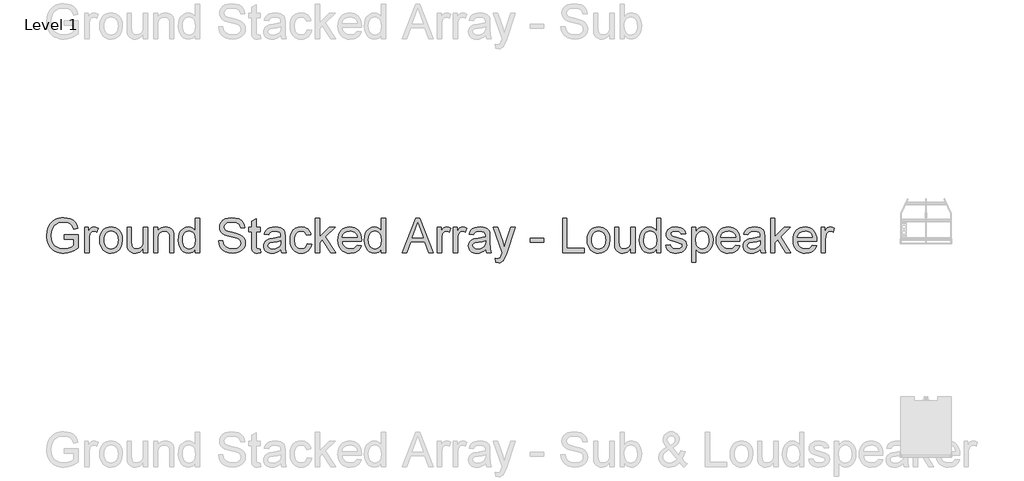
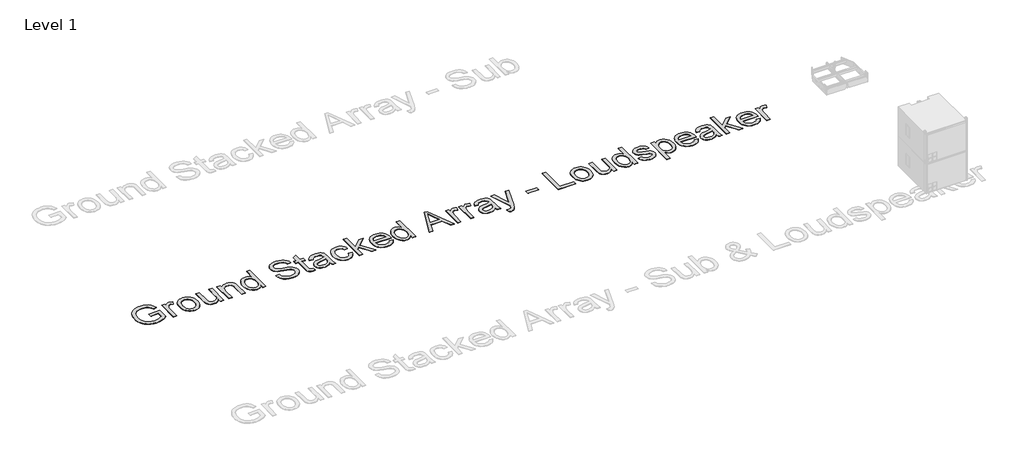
# One storey, part 16 of 31: 1 proxy.
"""IFC4 building model written with IfcOpenShell, lengths in millimetres."""

from ifc_helpers import new_model, si_unit, origin, origin_with_axes, place, context, project, spatial, polyline, outline, extrude, element, save

model = new_model("IFC4")

# Units and contexts
model_context = context("Model", 3, world=origin())
ifc_project = project(units=[si_unit("LENGTHUNIT", "METRE", prefix="MILLI")], contexts=[model_context])

# Site, building, storey
site = spatial("IfcSite", under=ifc_project)
building = spatial("IfcBuilding", under=site)
storey = spatial("IfcBuildingStorey", under=building, Name="Level 1", Elevation=0.0)

# Proxy
placement = place(None, origin())
element("IfcBuildingElementProxy", 1, Name="400mm Arial", ObjectType="400mm Arial", at=placement, inside=storey, context=model_context, shape_type="SweptSolid", body=[
    extrude(outline(polyline([(1908.6992468, -6940.554912), (1908.6992468, -6890.3267569), (2071.9407508, -6890.3267569), (2071.9407508, -7040.5207128), (2032.270809, -7068.1118625), (1991.3500684, -7087.9039138), (1949.2766309, -7099.8232904), (1906.1485983, -7103.796416), (1877.2974529, -7102.2175891), (1849.8013394, -7097.4811084), (1823.660258, -7089.5869739), (1798.8742085, -7078.5351857), (1776.2433345, -7064.4912905), (1756.5677791, -7047.6208353), (1739.8475424, -7027.9238202), (1726.0826244, -7005.400245), (1715.3312731, -6980.7705454), (1707.6517365, -6954.755157), (1703.0440145, -6927.3540797), (1701.5081071, -6898.5673136), (1707.627211, -6841.9748), (1715.2760908, -6815.1592683), (1725.9845226, -6789.3308865), (1739.5624339, -6765.6239576), (1755.8197524, -6745.1727844), (1774.7564781, -6727.9773668), (1796.372611, -6714.0377048), (1820.1991015, -6703.2648937), (1845.7669002, -6695.5700287), (1873.076007, -6690.9531096), (1902.1264218, -6689.4141366), (1943.5008836, -6692.982592), (1980.706016, -6703.687958), (2012.0372993, -6720.7576826), (2035.7902134, -6743.4192135), (2053.3627101, -6772.763934), (2066.1527408, -6809.8832273), (2019.8486603, -6822.9307754), (2009.5111762, -6796.4555345), (1996.9418747, -6776.4795422), (1980.3136086, -6761.4209058), (1957.7992305, -6749.6977329), (1930.9561075, -6742.156152), (1901.3416069, -6739.6422917), (1866.6748602, -6742.3523557), (1837.0358342, -6750.4825478), (1812.5348933, -6763.0150611), (1793.2824022, -6778.9320888), (1778.5058087, -6797.4120277), (1767.4325607, -6817.6332747), (1755.6603368, -6855.5496456), (1751.7362622, -6896.5071744), (1756.4574145, -6944.5403003), (1770.6208713, -6984.0630893), (1793.797437, -7014.7934986), (1825.5579159, -7036.4494854), (1862.7262602, -7049.288567), (1902.1264218, -7053.5682609), (1936.9157959, -7050.3431621), (1970.8467785, -7040.6678656), (2000.3141264, -7027.3382747), (2021.7125957, -7013.1502924), (2021.7125957, -6940.554912), (1908.6992468, -6940.554912)])), origin_with_axes(), (0.0, 0.0, 1.0), 5.0),
    extrude(outline(polyline([(2147.2829834, -7097.5178966), (2147.2829834, -6802.4274855), (2191.2326191, -6802.4274855), (2191.2326191, -6846.0828156), (2207.4684778, -6820.7725344), (2222.4290123, -6805.8610508), (2237.4385977, -6798.5769873), (2253.8216092, -6796.1489662), (2278.8375849, -6800.0239898), (2304.245968, -6811.6490609), (2287.4705491, -6856.6778171), (2269.8122133, -6848.9522952), (2252.1538775, -6846.3771212), (2237.1565549, -6848.8541933), (2223.7533875, -6856.2854096), (2212.9253941, -6868.1066844), (2205.6535933, -6883.7539319), (2199.5467522, -6911.8110654), (2197.5111385, -6942.4188474), (2197.5111385, -7097.5178966), (2147.2829834, -7097.5178966)])), origin_with_axes(), (0.0, 0.0, 1.0), 5.0),
    extrude(outline(polyline([(2323.0815262, -6949.9726911), (2325.7977216, -6911.7558831), (2333.9463078, -6878.8243132), (2347.5272848, -6851.1779813), (2366.5406526, -6828.8168873), (2385.682779, -6814.5246718), (2406.8114683, -6804.3159465), (2429.9267203, -6798.1907112), (2455.0285351, -6796.1489662), (2482.7392464, -6798.6352353), (2507.795076, -6806.0940428), (2530.1960238, -6818.5253885), (2549.9420899, -6835.9292726), (2566.058387, -6857.7170837), (2577.5700277, -6883.3002108), (2584.4770122, -6912.6786538), (2586.7793403, -6945.8524127), (2582.7081129, -6996.5956026), (2570.4944307, -7035.2232121), (2550.4939129, -7064.1509996), (2523.0621788, -7085.7947237), (2490.4800967, -7099.2959929), (2455.0285351, -7103.796416), (2426.9131536, -7101.3193439), (2401.6243322, -7093.8881276), (2379.1620707, -7081.5027671), (2359.5263692, -7064.1632624), (2343.5817504, -7042.1639191), (2332.1927369, -7015.7990427), (2325.3593289, -6985.0686334), (2323.0815262, -6949.9726911)]), holes=[polyline([(2373.3096813, -6949.8745892), (2374.7628152, -6974.2375743), (2379.1222168, -6995.3325411), (2386.3878862, -7013.1594894), (2396.5598234, -7027.7184194), (2408.9329211, -7039.0277251), (2422.8020724, -7047.1058005), (2438.167277, -7051.9526458), (2455.0285351, -7053.5682609), (2471.8039541, -7051.9434488), (2487.1078451, -7047.0690123), (2500.9402081, -7038.9449516), (2513.3010432, -7027.5712666), (2523.4729803, -7012.8682495), (2530.7386497, -6994.7561926), (2535.0980514, -6973.2350959), (2536.5511853, -6948.3049594), (2535.0888543, -6924.7145264), (2530.7018615, -6904.1713827), (2523.3902069, -6886.6755281), (2513.1538904, -6872.2269628), (2500.7470701, -6860.9176571), (2486.9239041, -6852.8395816), (2471.6843925, -6847.9927363), (2455.0285351, -6846.3771212), (2438.167277, -6847.986605), (2422.8020724, -6852.8150562), (2408.9329211, -6860.8624748), (2396.5598234, -6872.1288609), (2386.3878862, -6886.6448713), (2379.1222168, -6904.4411628), (2374.7628152, -6925.5177354), (2373.3096813, -6949.8745892)])]), origin_with_axes(), (0.0, 0.0, 1.0), 5.0),
    extrude(outline(polyline([(2831.6415963, -7097.5178966), (2831.6415963, -7046.7992322), (2813.4682258, -7071.7355001), (2792.3027483, -7089.54712), (2768.145164, -7100.234092), (2740.9954727, -7103.796416), (2716.53132, -7101.2948184), (2693.7594245, -7093.7900257), (2674.6540863, -7082.5083112), (2661.1896052, -7068.6759482), (2652.1274454, -7051.8760037), (2646.2290708, -7031.6915449), (2643.2860148, -6984.995057), (2643.2860148, -6802.4274855), (2693.5141699, -6802.4274855), (2693.5141699, -6961.3525075), (2696.5553277, -7012.5616812), (2703.8761794, -7029.6436685), (2716.4209554, -7042.6299029), (2733.3557899, -7050.8336714), (2753.8468171, -7053.5682609), (2775.5150666, -7050.7723578), (2795.7853645, -7042.3846483), (2812.4994698, -7029.1776846), (2823.4991415, -7011.9240191), (2829.6059826, -6988.2937322), (2831.6415963, -6955.9569049), (2831.6415963, -6802.4274855), (2881.8697514, -6802.4274855), (2881.8697514, -7097.5178966), (2831.6415963, -7097.5178966)])), origin_with_axes(), (0.0, 0.0, 1.0), 5.0),
    extrude(outline(polyline([(2950.9334646, -7097.5178966), (2950.9334646, -6802.4274855), (3001.1616197, -6802.4274855), (3001.1616197, -6843.630269), (3018.611489, -6822.857199), (3039.5685, -6808.0192919), (3064.0326527, -6799.1165476), (3092.003947, -6796.1489662), (3116.7624053, -6798.5401991), (3139.436199, -6805.713898), (3158.3453335, -6816.7748834), (3171.8098145, -6830.8279756), (3180.9455507, -6847.8363865), (3186.8684509, -6867.7633279), (3189.5172012, -6916.3237513), (3189.5172012, -7097.5178966), (3139.2890462, -7097.5178966), (3139.2890462, -6923.09278), (3137.8420436, -6897.1203111), (3133.5010361, -6878.6526349), (3125.4934713, -6865.4211459), (3113.0467972, -6855.1572382), (3097.0929813, -6848.5721505), (3078.5639915, -6846.3771212), (3049.1456946, -6851.30674), (3024.0684053, -6866.0955962), (3014.0466866, -6878.168257), (3006.8883161, -6894.6677645), (3002.5932938, -6915.5941186), (3001.1616197, -6940.9473195), (3001.1616197, -7097.5178966), (2950.9334646, -7097.5178966)])), origin_with_axes(), (0.0, 0.0, 1.0), 5.0),
    extrude(outline(polyline([(3440.6579766, -7097.5178966), (3440.6579766, -7050.1346956), (3425.6299971, -7073.6116983), (3407.4259697, -7090.3809859), (3386.0458944, -7100.4425585), (3361.4897712, -7103.796416), (3329.0180538, -7098.9403737), (3299.2931886, -7084.3722466), (3274.1300601, -7061.1098418), (3255.3435529, -7030.170966), (3243.6449055, -6992.806418), (3239.7453563, -6950.2669967), (3243.3383371, -6908.2548728), (3254.1172796, -6870.3139764), (3272.069921, -6838.6025484), (3297.1839985, -6815.2788299), (3327.5587886, -6800.9314321), (3361.2935675, -6796.1489662), (3385.8680848, -6799.5702687), (3407.597648, -6809.8341764), (3426.0162732, -6825.567263), (3440.6579766, -6845.3961026), (3440.6579766, -6695.692656), (3490.8861317, -6695.692656), (3490.8861317, -7097.5178966), (3440.6579766, -7097.5178966)]), holes=[polyline([(3289.9735114, -6950.0707929), (3291.3898571, -6974.4276467), (3295.6388941, -6995.5042193), (3302.7206225, -7013.3005109), (3312.6350423, -7027.8165213), (3337.3321869, -7047.130326), (3351.2074695, -7051.9587772), (3366.1005589, -7053.5682609), (3381.0641591, -7052.0323536), (3394.8566682, -7047.4246316), (3418.9284134, -7028.9937436), (3428.4350973, -7015.0847385), (3435.2255858, -6997.9322405), (3440.6579766, -6953.8967657), (3435.1274839, -6905.7532753), (3428.2143681, -6887.2181541), (3418.536006, -6872.3741156), (3406.8342928, -6861.0004305), (3393.8511241, -6852.8763698), (3379.5864997, -6848.0019334), (3364.0404197, -6846.3771212), (3348.8530247, -6847.937554), (3334.9777421, -6852.6188524), (3322.414572, -6860.4210164), (3311.1635143, -6871.344046), (3301.892888, -6885.6270644), (3295.2710121, -6903.5091951), (3289.9735114, -6950.0707929)])]), origin_with_axes(), (0.0, 0.0, 1.0), 5.0),
    extrude(outline(polyline([(3710.6343101, -6959.3904702), (3760.8624652, -6959.3904702), (3766.6259498, -6987.2636627), (3777.049273, -7009.6676762), (3793.3096572, -7027.4486393), (3816.5843247, -7041.4526805), (3845.0338657, -7050.5393658), (3876.8188701, -7053.5682609), (3904.8024272, -7051.2751298), (3929.3033681, -7044.3957365), (3949.1567331, -7033.5064294), (3963.1975626, -7019.1835571), (3971.5484838, -7002.7392319), (3974.3321243, -6985.4855663), (3972.2474596, -6968.6733592), (3965.9934657, -6954.1420204), (3953.2892742, -6941.7443971), (3931.8540166, -6931.3333367), (3858.7190759, -6912.154422), (3810.7104756, -6899.4624931), (3779.992329, -6887.383701), (3754.988616, -6870.4856547), (3737.2689666, -6850.0068903), (3726.7107533, -6826.3888662), (3723.1913489, -6800.0730408), (3727.5446192, -6770.6547439), (3740.60443, -6743.2230098), (3762.0274249, -6719.9728677), (3791.4702472, -6703.0993468), (3826.8114442, -6692.8354392), (3865.929563, -6689.4141366), (3908.3095689, -6692.9948547), (3945.392074, -6703.737009), (3975.8527032, -6721.4198702), (3998.3670813, -6745.8227092), (4012.6163772, -6775.4249471), (4018.28176, -6808.7060049), (3968.0536049, -6808.7060049), (3958.8320295, -6778.7358851), (3950.4688455, -6766.8778221), (3939.6040639, -6757.1044237), (3909.5603677, -6744.0078247), (3867.8916003, -6739.6422917), (3825.2418144, -6743.9587738), (3808.9385106, -6749.3543764), (3795.982933, -6756.90822), (3779.0603612, -6775.9645074), (3773.419504, -6798.6015128), (3777.417155, -6817.9030548), (3789.410108, -6833.427675), (3817.7615471, -6847.309089), (3871.4232675, -6861.4848085), (3926.8017705, -6874.9492895), (3960.3035575, -6886.6969879), (3988.9370395, -6904.9194094), (4008.9130318, -6927.409262), (4020.6484675, -6953.9212912), (4024.5602794, -6984.2102421), (4020.0598563, -7015.1736434), (4006.5585871, -7044.2976346), (3984.6082947, -7069.3626612), (3954.7608021, -7088.1491685), (3918.8677821, -7099.8846041), (3878.7809074, -7103.796416), (3829.5705592, -7099.5780358), (3789.0667515, -7086.9228951), (3756.8035005, -7065.7819432), (3732.3148224, -7036.1061289), (3716.5939985, -6999.9555915), (3710.6343101, -6959.3904702)])), origin_with_axes(), (0.0, 0.0, 1.0), 5.0),
    extrude(outline(polyline([(4200.3588221, -7055.6284001), (4206.6373415, -7098.9894246), (4169.0643271, -7103.796416), (4144.9557936, -7101.7117514), (4126.9786268, -7095.4577574), (4114.2744352, -7085.8192492), (4105.9848276, -7073.5810415), (4101.4230909, -7052.5627168), (4099.902512, -7016.5838577), (4099.902512, -6852.6556406), (4062.2313957, -6852.6556406), (4062.2313957, -6802.4274855), (4099.902512, -6802.4274855), (4099.902512, -6730.715022), (4150.130667, -6701.1863605), (4150.130667, -6802.4274855), (4200.3588221, -6802.4274855), (4200.3588221, -6852.6556406), (4150.130667, -6852.6556406), (4150.130667, -7015.1123297), (4152.7794174, -7041.0112221), (4161.3633306, -7050.1837466), (4178.4821061, -7053.5682609), (4200.3588221, -7055.6284001)])), origin_with_axes(), (0.0, 0.0, 1.0), 5.0),
    extrude(outline(polyline([(4438.9425587, -7059.8467803), (4414.9443899, -7080.4236466), (4390.2349826, -7093.8881276), (4364.250251, -7101.3193439), (4336.4261094, -7103.796416), (4314.0619498, -7102.3064939), (4294.4507737, -7097.8367277), (4277.5925813, -7090.3871173), (4263.4873725, -7079.9576627), (4252.3497451, -7067.2105516), (4244.3942969, -7052.8079715), (4239.6210281, -7036.7499224), (4238.0299384, -7019.0364043), (4240.4334341, -6998.2142834), (4247.6439212, -6979.3051488), (4258.7662202, -6963.118341), (4272.9051516, -6950.4632004), (4289.521155, -6940.8982685), (4308.0746703, -6933.982087), (4351.5337967, -6926.4282434), (4402.8901232, -6918.4819923), (4438.6482531, -6909.1623151), (4438.9425587, -6897.9787024), (4435.484468, -6875.5624262), (4425.1101957, -6860.8961973), (4401.9091045, -6850.0068903), (4369.5845399, -6846.3771212), (4339.663471, -6848.7928797), (4318.7677736, -6856.040155), (4304.5184777, -6869.4433223), (4294.5366129, -6890.3267569), (4244.3084578, -6884.0482375), (4253.0272611, -6856.5797152), (4266.038021, -6834.9973049), (4284.5547481, -6818.491666), (4309.7914529, -6806.2534583), (4340.6567523, -6798.6750892), (4376.059263, -6796.1489662), (4410.0147712, -6798.3807836), (4436.9314705, -6805.0762359), (4457.2262939, -6815.1439398), (4471.3161743, -6827.4925121), (4480.660377, -6842.7596149), (4486.7181672, -6861.5829104), (4489.1707138, -6905.5325461), (4489.1707138, -6968.0234343), (4491.7213623, -7055.2850436), (4501.7277526, -7097.5178966), (4451.4995975, -7097.5178966), (4443.4552445, -7080.0557646), (4438.9425587, -7059.8467803)]), holes=[polyline([(4438.9425587, -6959.3904702), (4405.195517, -6967.7536542), (4357.9104179, -6974.792463), (4314.6965462, -6982.9349178), (4303.4516199, -6988.5021987), (4295.1252241, -6996.1786697), (4289.9748761, -7005.3757195), (4288.2580935, -7015.5047372), (4291.9982271, -7030.4407462), (4303.218628, -7042.6789539), (4321.6740414, -7050.8459342), (4347.1192127, -7053.5682609), (4374.0972257, -7050.5638913), (4397.935979, -7041.5507824), (4417.2620465, -7028.2702424), (4430.702002, -7012.4635793), (4436.6616904, -6996.1786697), (4438.6482531, -6973.6152406), (4438.9425587, -6959.3904702)])]), origin_with_axes(), (0.0, 0.0, 1.0), 5.0),
    extrude(outline(polyline([(4746.5900086, -6990.7830671), (4796.8181636, -6997.0615865), (4791.355116, -7020.762384), (4782.8141223, -7041.7347234), (4771.1951827, -7059.9786047), (4756.498297, -7075.4940278), (4739.3427332, -7087.8763227), (4720.3477596, -7096.720819), (4699.5133759, -7102.0275167), (4676.8395823, -7103.796416), (4648.6690185, -7101.3285409), (4623.4108538, -7093.9249158), (4601.0650883, -7081.5855405), (4581.6317219, -7064.3104152), (4565.9017009, -7042.4245021), (4554.6659717, -7016.2527639), (4547.9245341, -6985.7952004), (4545.6773883, -6951.0518116), (4549.5156237, -6906.3541492), (4561.0303302, -6867.6161751), (4580.4054486, -6836.3339428), (4607.82492, -6814.0035057), (4640.6277312, -6800.612601), (4676.1528692, -6796.1489662), (4698.4373211, -6797.6818078), (4718.5941887, -6802.2803327), (4736.6234722, -6809.944541), (4752.5251714, -6820.6744325), (4766.0295063, -6834.2247527), (4776.8666968, -6850.3502468), (4785.0367427, -6869.0509149), (4790.5396442, -6890.3267569), (4740.3114892, -6896.6052763), (4731.2002784, -6874.6917721), (4717.0122961, -6858.9832109), (4698.5323573, -6849.5286437), (4676.5452767, -6846.3771212), (4659.4786178, -6847.928357), (4644.085822, -6852.5820642), (4630.3668892, -6860.338243), (4618.3218196, -6871.1968932), (4608.5146987, -6885.4094009), (4601.5096124, -6903.2271522), (4597.3065606, -6924.6501471), (4595.9055433, -6949.6783855), (4601.3869851, -6996.7550181), (4608.2387872, -7014.6923311), (4617.8313102, -7028.8956418), (4629.6372566, -7039.6899127), (4643.1293288, -7047.4001061), (4658.3075268, -7052.0262222), (4675.1718506, -7053.5682609), (4701.1811076, -7049.7177627), (4722.5060006, -7038.1662681), (4738.0183581, -7018.6194714), (4746.5900086, -6990.7830671)])), origin_with_axes(), (0.0, 0.0, 1.0), 5.0),
    extrude(outline(polyline([(4840.7677993, -7097.5178966), (4840.7677993, -6695.692656), (4890.9959544, -6695.692656), (4890.9959544, -6911.6148617), (5003.6168959, -6802.4274855), (5073.0730165, -6802.4274855), (4958.9805471, -6912.9882878), (5079.3515359, -7097.5178966), (5020.6866204, -7097.5178966), (4922.9771625, -6947.9125519), (4890.9959544, -6979.0108432), (4890.9959544, -7097.5178966), (4840.7677993, -7097.5178966)])), origin_with_axes(), (0.0, 0.0, 1.0), 5.0),
    extrude(outline(polyline([(5329.9037001, -7009.6186252), (5379.1508365, -7015.8971446), (5371.6000586, -7035.6217509), (5361.4066616, -7053.0041752), (5348.5706457, -7068.0444174), (5333.0920107, -7080.7424776), (5315.1301723, -7090.8285757), (5294.844546, -7098.0329314), (5247.3019295, -7103.796416), (5216.1361931, -7101.3101468), (5188.3672338, -7093.8513394), (5163.9950516, -7081.4199936), (5143.0196466, -7064.0161096), (5126.1522571, -7042.1240652), (5114.1041217, -7016.2282384), (5106.8752405, -6986.3286292), (5104.4656135, -6952.4252377), (5106.899766, -6917.3722149), (5114.2022236, -6886.4762587), (5126.3729863, -6859.737369), (5143.412054, -6837.1555459), (5164.3322768, -6819.2151673), (5188.1465046, -6806.4006111), (5214.8547375, -6798.7118774), (5244.4569754, -6796.1489662), (5273.1057857, -6798.705746), (5299.0138752, -6806.3760856), (5322.1812439, -6819.159985), (5342.6078917, -6837.057444), (5359.2821431, -6859.5902162), (5371.1923227, -6886.280055), (5378.3384305, -6917.1269603), (5380.7204664, -6952.1309321), (5380.4261608, -6965.6689895), (5154.6937685, -6965.6689895), (5157.603102, -6985.7124269), (5163.3880464, -7003.2665294), (5172.0486017, -7018.3312971), (5183.5847679, -7030.90673), (5197.3588829, -7040.8211498), (5212.7332846, -7047.9028782), (5248.2829481, -7053.5682609), (5275.0157064, -7050.944036), (5297.5300845, -7043.0713613), (5315.8260824, -7029.4597275), (5329.9037001, -7009.6186252)]), holes=[polyline([(5154.6937685, -6915.4408345), (5330.4923113, -6915.4408345), (5323.6987571, -6888.9042799), (5310.3814289, -6869.9215689), (5296.6839559, -6859.6208731), (5281.0980221, -6852.2632332), (5263.6236273, -6847.8486492), (5244.2607716, -6846.3771212), (5210.4033653, -6851.073748), (5182.4075455, -6865.1636285), (5162.946588, -6887.1261836), (5154.6937685, -6915.4408345)])]), origin_with_axes(), (0.0, 0.0, 1.0), 5.0),
    extrude(outline(polyline([(5613.0256836, -7097.5178966), (5613.0256836, -7050.1346956), (5597.9977041, -7073.6116983), (5579.7936767, -7090.3809859), (5558.4136014, -7100.4425585), (5533.8574782, -7103.796416), (5501.3857608, -7098.9403737), (5471.6608956, -7084.3722466), (5446.4977671, -7061.1098418), (5427.7112599, -7030.170966), (5416.0126124, -6992.806418), (5412.1130633, -6950.2669967), (5415.7060441, -6908.2548728), (5426.4849866, -6870.3139764), (5444.4376279, -6838.6025484), (5469.5517055, -6815.2788299), (5499.9264955, -6800.9314321), (5533.6612745, -6796.1489662), (5558.2357918, -6799.5702687), (5579.965355, -6809.8341764), (5598.3839802, -6825.567263), (5613.0256836, -6845.3961026), (5613.0256836, -6695.692656), (5663.2538387, -6695.692656), (5663.2538387, -7097.5178966), (5613.0256836, -7097.5178966)]), holes=[polyline([(5462.3412184, -6950.0707929), (5463.7575641, -6974.4276467), (5468.0066011, -6995.5042193), (5475.0883295, -7013.3005109), (5485.0027493, -7027.8165213), (5509.6998939, -7047.130326), (5523.5751765, -7051.9587772), (5538.4682659, -7053.5682609), (5553.4318661, -7052.0323536), (5567.2243752, -7047.4246316), (5591.2961204, -7028.9937436), (5600.8028043, -7015.0847385), (5607.5932928, -6997.9322405), (5613.0256836, -6953.8967657), (5607.4951909, -6905.7532753), (5600.5820751, -6887.2181541), (5590.903713, -6872.3741156), (5579.2019998, -6861.0004305), (5566.2188311, -6852.8763698), (5551.9542067, -6848.0019334), (5536.4081267, -6846.3771212), (5521.2207317, -6847.937554), (5507.3454491, -6852.6188524), (5494.782279, -6860.4210164), (5483.5312213, -6871.344046), (5474.260595, -6885.6270644), (5467.6387191, -6903.5091951), (5462.3412184, -6950.0707929)])]), origin_with_axes(), (0.0, 0.0, 1.0), 5.0),
    extrude(outline(polyline([(5855.1410874, -7097.5178966), (6015.5376373, -6695.692656), (6058.3100506, -6695.692656), (6218.6084986, -7097.5178966), (6165.5353894, -7097.5178966), (6119.6237164, -6971.9475089), (5954.0277677, -6971.9475089), (5908.1160947, -7097.5178966), (5855.1410874, -7097.5178966)]), holes=[polyline([(5972.4709183, -6921.7193538), (6101.2786676, -6921.7193538), (6064.9809774, -6822.9307754), (6036.825742, -6745.9208111), (6011.8097664, -6814.2978113), (5972.4709183, -6921.7193538)])]), origin_with_axes(), (0.0, 0.0, 1.0), 5.0),
    extrude(outline(polyline([(6265.9916996, -7097.5178966), (6265.9916996, -6802.4274855), (6309.9413353, -6802.4274855), (6309.9413353, -6846.0828156), (6326.177194, -6820.7725344), (6341.1377284, -6805.8610508), (6356.1473139, -6798.5769873), (6372.5303254, -6796.1489662), (6397.546301, -6800.0239898), (6422.9546842, -6811.6490609), (6406.1792652, -6856.6778171), (6388.5209294, -6848.9522952), (6370.8625937, -6846.3771212), (6355.865271, -6848.8541933), (6342.4621036, -6856.2854096), (6331.6341102, -6868.1066844), (6324.3623095, -6883.7539319), (6318.2554683, -6911.8110654), (6316.2198546, -6942.4188474), (6316.2198546, -7097.5178966), (6265.9916996, -7097.5178966)])), origin_with_axes(), (0.0, 0.0, 1.0), 5.0),
    extrude(outline(polyline([(6454.3472811, -7097.5178966), (6454.3472811, -6802.4274855), (6498.2969168, -6802.4274855), (6498.2969168, -6846.0828156), (6514.5327755, -6820.7725344), (6529.49331, -6805.8610508), (6544.5028954, -6798.5769873), (6560.8859069, -6796.1489662), (6585.9018826, -6800.0239898), (6611.3102657, -6811.6490609), (6594.5348467, -6856.6778171), (6576.876511, -6848.9522952), (6559.2181752, -6846.3771212), (6544.2208525, -6848.8541933), (6530.8176852, -6856.2854096), (6519.9896918, -6868.1066844), (6512.717891, -6883.7539319), (6506.6110499, -6911.8110654), (6504.5754362, -6942.4188474), (6504.5754362, -7097.5178966), (6454.3472811, -7097.5178966)])), origin_with_axes(), (0.0, 0.0, 1.0), 5.0),
    extrude(outline(polyline([(6831.0584442, -7059.8467803), (6807.0602753, -7080.4236466), (6782.350868, -7093.8881276), (6756.3661364, -7101.3193439), (6728.5419948, -7103.796416), (6706.1778352, -7102.3064939), (6686.5666592, -7097.8367277), (6669.7084668, -7090.3871173), (6655.6032579, -7079.9576627), (6644.4656305, -7067.2105516), (6636.5101824, -7052.8079715), (6631.7369135, -7036.7499224), (6630.1458239, -7019.0364043), (6632.5493196, -6998.2142834), (6639.7598067, -6979.3051488), (6650.8821057, -6963.118341), (6665.021037, -6950.4632004), (6681.6370405, -6940.8982685), (6700.1905557, -6933.982087), (6743.6496821, -6926.4282434), (6795.0060086, -6918.4819923), (6830.7641386, -6909.1623151), (6831.0584442, -6897.9787024), (6827.6003534, -6875.5624262), (6817.2260811, -6860.8961973), (6794.02499, -6850.0068903), (6761.7004253, -6846.3771212), (6731.7793564, -6848.7928797), (6710.8836591, -6856.040155), (6696.6343631, -6869.4433223), (6686.6524983, -6890.3267569), (6636.4243432, -6884.0482375), (6645.1431465, -6856.5797152), (6658.1539064, -6834.9973049), (6676.6706335, -6818.491666), (6701.9073384, -6806.2534583), (6732.7726378, -6798.6750892), (6768.1751484, -6796.1489662), (6802.1306566, -6798.3807836), (6829.0473559, -6805.0762359), (6849.3421793, -6815.1439398), (6863.4320597, -6827.4925121), (6872.7762624, -6842.7596149), (6878.8340526, -6861.5829104), (6881.2865992, -6905.5325461), (6881.2865992, -6968.0234343), (6883.8372477, -7055.2850436), (6893.843638, -7097.5178966), (6843.6154829, -7097.5178966), (6835.57113, -7080.0557646), (6831.0584442, -7059.8467803)]), holes=[polyline([(6831.0584442, -6959.3904702), (6797.3114025, -6967.7536542), (6750.0263034, -6974.792463), (6706.8124317, -6982.9349178), (6695.5675053, -6988.5021987), (6687.2411095, -6996.1786697), (6682.0907616, -7005.3757195), (6680.3739789, -7015.5047372), (6684.1141126, -7030.4407462), (6695.3345134, -7042.6789539), (6713.7899268, -7050.8459342), (6739.2350982, -7053.5682609), (6766.2131111, -7050.5638913), (6790.0518644, -7041.5507824), (6809.3779319, -7028.2702424), (6822.8178875, -7012.4635793), (6828.7775758, -6996.1786697), (6830.7641386, -6973.6152406), (6831.0584442, -6959.3904702)])]), origin_with_axes(), (0.0, 0.0, 1.0), 5.0),
    extrude(outline(polyline([(6950.3503125, -7210.5312455), (6944.0717931, -7162.1670259), (6969.5782781, -7166.5816098), (6982.9937082, -7165.195921), (6993.4170314, -7161.0388544), (7008.0342093, -7145.5878106), (7021.7684705, -7108.6034074), (7025.6925451, -7096.4387761), (6918.9577155, -6802.4274855), (6971.834621, -6802.4274855), (7028.5374992, -6966.3557026), (7048.2559741, -7031.8877487), (7067.9744491, -6973.9095462), (7126.1488552, -6802.4274855), (7178.6333532, -6802.4274855), (7075.9207001, -7104.5812309), (7049.2369928, -7170.113277), (7035.576308, -7191.0334998), (7020.1007387, -7205.5280504), (7002.1480974, -7213.9893363), (6981.0561963, -7216.8097649), (6950.3503125, -7210.5312455)])), origin_with_axes(), (0.0, 0.0, 1.0), 5.0),
    extrude(outline(polyline([(7352.1755531, -6978.2260283), (7352.1755531, -6927.9978732), (7509.1385377, -6927.9978732), (7509.1385377, -6978.2260283), (7352.1755531, -6978.2260283)])), origin_with_axes(), (0.0, 0.0, 1.0), 5.0),
    extrude(outline(polyline([(7728.8867161, -7097.5178966), (7728.8867161, -6695.692656), (7779.1148712, -6695.692656), (7779.1148712, -7047.2897415), (7980.0274915, -7047.2897415), (7980.0274915, -7097.5178966), (7728.8867161, -7097.5178966)])), origin_with_axes(), (0.0, 0.0, 1.0), 5.0),
    extrude(outline(polyline([(8017.6986078, -6949.9726911), (8020.4148032, -6911.7558831), (8028.5633894, -6878.8243132), (8042.1443664, -6851.1779813), (8061.1577342, -6828.8168873), (8080.2998606, -6814.5246718), (8101.4285499, -6804.3159465), (8124.5438019, -6798.1907112), (8149.6456167, -6796.1489662), (8177.356328, -6798.6352353), (8202.4121576, -6806.0940428), (8224.8131054, -6818.5253885), (8244.5591715, -6835.9292726), (8260.6754686, -6857.7170837), (8272.1871093, -6883.3002108), (8279.0940938, -6912.6786538), (8281.3964219, -6945.8524127), (8277.3251945, -6996.5956026), (8265.1115123, -7035.2232121), (8245.1109945, -7064.1509996), (8217.6792604, -7085.7947237), (8185.0971783, -7099.2959929), (8149.6456167, -7103.796416), (8121.5302353, -7101.3193439), (8096.2414138, -7093.8881276), (8073.7791523, -7081.5027671), (8054.1434508, -7064.1632624), (8038.198832, -7042.1639191), (8026.8098185, -7015.7990427), (8019.9764105, -6985.0686334), (8017.6986078, -6949.9726911)]), holes=[polyline([(8067.9267629, -6949.8745892), (8069.3798968, -6974.2375743), (8073.7392984, -6995.3325411), (8081.0049678, -7013.1594894), (8091.176905, -7027.7184194), (8103.5500027, -7039.0277251), (8117.419154, -7047.1058005), (8132.7843586, -7051.9526458), (8149.6456167, -7053.5682609), (8166.4210357, -7051.9434488), (8181.7249267, -7047.0690123), (8195.5572897, -7038.9449516), (8207.9181248, -7027.5712666), (8218.0900619, -7012.8682495), (8225.3557313, -6994.7561926), (8229.715133, -6973.2350959), (8231.1682669, -6948.3049594), (8229.7059359, -6924.7145264), (8225.3189431, -6904.1713827), (8218.0072885, -6886.6755281), (8207.770972, -6872.2269628), (8195.3641517, -6860.9176571), (8181.5409857, -6852.8395816), (8166.3014741, -6847.9927363), (8149.6456167, -6846.3771212), (8132.7843586, -6847.986605), (8117.419154, -6852.8150562), (8103.5500027, -6860.8624748), (8091.176905, -6872.1288609), (8081.0049678, -6886.6448713), (8073.7392984, -6904.4411628), (8069.3798968, -6925.5177354), (8067.9267629, -6949.8745892)])]), origin_with_axes(), (0.0, 0.0, 1.0), 5.0),
    extrude(outline(polyline([(8526.2586779, -7097.5178966), (8526.2586779, -7046.7992322), (8508.0853074, -7071.7355001), (8486.9198299, -7089.54712), (8462.7622456, -7100.234092), (8435.6125543, -7103.796416), (8411.1484016, -7101.2948184), (8388.3765061, -7093.7900257), (8369.2711679, -7082.5083112), (8355.8066868, -7068.6759482), (8346.744527, -7051.8760037), (8340.8461524, -7031.6915449), (8337.9030964, -6984.995057), (8337.9030964, -6802.4274855), (8388.1312515, -6802.4274855), (8388.1312515, -6961.3525075), (8391.1724093, -7012.5616812), (8398.493261, -7029.6436685), (8411.038037, -7042.6299029), (8427.9728716, -7050.8336714), (8448.4638987, -7053.5682609), (8470.1321482, -7050.7723578), (8490.4024461, -7042.3846483), (8507.1165515, -7029.1776846), (8518.1162231, -7011.9240191), (8524.2230642, -6988.2937322), (8526.2586779, -6955.9569049), (8526.2586779, -6802.4274855), (8576.486833, -6802.4274855), (8576.486833, -7097.5178966), (8526.2586779, -7097.5178966)])), origin_with_axes(), (0.0, 0.0, 1.0), 5.0),
    extrude(outline(polyline([(8827.6276084, -7097.5178966), (8827.6276084, -7050.1346956), (8812.5996289, -7073.6116983), (8794.3956015, -7090.3809859), (8773.0155262, -7100.4425585), (8748.459403, -7103.796416), (8715.9876856, -7098.9403737), (8686.2628204, -7084.3722466), (8661.0996919, -7061.1098418), (8642.3131847, -7030.170966), (8630.6145372, -6992.806418), (8626.7149881, -6950.2669967), (8630.3079689, -6908.2548728), (8641.0869114, -6870.3139764), (8659.0395527, -6838.6025484), (8684.1536303, -6815.2788299), (8714.5284203, -6800.9314321), (8748.2631993, -6796.1489662), (8772.8377166, -6799.5702687), (8794.5672797, -6809.8341764), (8812.985905, -6825.567263), (8827.6276084, -6845.3961026), (8827.6276084, -6695.692656), (8877.8557635, -6695.692656), (8877.8557635, -7097.5178966), (8827.6276084, -7097.5178966)]), holes=[polyline([(8676.9431432, -6950.0707929), (8678.3594888, -6974.4276467), (8682.6085259, -6995.5042193), (8689.6902543, -7013.3005109), (8699.6046741, -7027.8165213), (8724.3018187, -7047.130326), (8738.1771013, -7051.9587772), (8753.0701907, -7053.5682609), (8768.0337908, -7052.0323536), (8781.8263, -7047.4246316), (8805.8980452, -7028.9937436), (8815.4047291, -7015.0847385), (8822.1952176, -6997.9322405), (8827.6276084, -6953.8967657), (8822.0971157, -6905.7532753), (8815.1839999, -6887.2181541), (8805.5056377, -6872.3741156), (8793.8039246, -6861.0004305), (8780.8207559, -6852.8763698), (8766.5561315, -6848.0019334), (8751.0100515, -6846.3771212), (8735.8226565, -6847.937554), (8721.9473739, -6852.6188524), (8709.3842038, -6860.4210164), (8698.1331461, -6871.344046), (8688.8625198, -6885.6270644), (8682.2406439, -6903.5091951), (8676.9431432, -6950.0707929)])]), origin_with_axes(), (0.0, 0.0, 1.0), 5.0),
    extrude(outline(polyline([(8934.3624379, -7009.6186252), (8984.590593, -7003.3401058), (8992.5123186, -7024.8244144), (9007.8407351, -7040.6188147), (9030.6739443, -7050.3308994), (9061.110048, -7053.5682609), (9091.1782697, -7050.6006795), (9112.3192217, -7041.6979352), (9124.8272096, -7028.7975399), (9128.9965388, -7013.8370054), (9124.8026841, -7001.034712), (9112.2211199, -6991.2735764), (9060.5214368, -6976.9507041), (8984.8848986, -6952.3761868), (8965.7427721, -6940.0276145), (8951.8736209, -6923.6813912), (8943.4491232, -6904.3798491), (8940.6409573, -6883.1653208), (8942.8973002, -6863.7043632), (8949.6663289, -6845.7394591), (8960.3349068, -6829.981847), (8974.2898971, -6817.1427654), (9006.2220543, -6802.2803327), (9027.1054889, -6797.6818078), (9049.435926, -6796.1489662), (9082.1283726, -6798.6137755), (9110.5533881, -6806.0082036), (9133.4111228, -6817.6087492), (9149.4017268, -6832.691911), (9159.9967283, -6852.3735978), (9166.6676551, -6877.7697182), (9116.4395001, -6884.0482375), (9110.099667, -6868.2415745), (9097.554891, -6856.3344606), (9078.6825446, -6848.8664561), (9053.3600006, -6846.3771212), (9024.5180522, -6848.7560915), (9005.2900866, -6855.8930022), (8994.4743559, -6866.193698), (8990.8691124, -6878.0640238), (8996.8533262, -6892.6812017), (9015.5907825, -6903.7667125), (9058.8537051, -6914.4598158), (9132.5772569, -6938.1023654), (9152.0504772, -6949.4086054), (9166.8148079, -6964.8841746), (9176.1222224, -6984.5781241), (9179.2246939, -7008.5395047), (9175.5826622, -7033.3102257), (9164.6565669, -7056.6094187), (9146.8633411, -7076.6099365), (9122.6199176, -7091.4846319), (9093.3365108, -7100.71847), (9060.4233349, -7103.796416), (9033.3901397, -7102.3126253), (9009.7782469, -7097.8612531), (8989.5876568, -7090.4422996), (8972.8183691, -7080.0557646), (8959.1208962, -7066.7506991), (8948.14575, -7050.576154), (8939.8929306, -7031.5321294), (8934.3624379, -7009.6186252)])), origin_with_axes(), (0.0, 0.0, 1.0), 5.0),
    extrude(outline(polyline([(9235.7313684, -7210.5312455), (9235.7313684, -6802.4274855), (9285.9595234, -6802.4274855), (9285.9595234, -6851.674622), (9302.342535, -6827.3821476), (9320.6875838, -6810.0303801), (9342.0737904, -6799.6193196), (9367.5802754, -6796.1489662), (9401.5480463, -6801.0050085), (9431.2483861, -6815.5731355), (9455.4304959, -6838.9704304), (9472.843577, -6870.3139764), (9483.3650021, -6907.3229051), (9486.8721437, -6947.7163482), (9482.9112809, -6990.6727025), (9471.0286925, -7029.0918455), (9451.6045231, -7061.0240027), (9425.0189176, -7084.5193994), (9394.0555164, -7098.9771619), (9361.4979598, -7103.796416), (9338.4072332, -7100.5713172), (9317.7935788, -7090.8960207), (9300.1475057, -7076.2911055), (9285.9595234, -7058.2771505), (9285.9595234, -7210.5312455), (9235.7313684, -7210.5312455)]), holes=[polyline([(9285.9595234, -6952.3271358), (9291.3919142, -6997.3558921), (9298.1824027, -7014.7934986), (9307.6890866, -7028.8465908), (9331.7363064, -7047.3878434), (9345.4981587, -7052.0231565), (9360.4188393, -7053.5682609), (9375.5541177, -7051.9679742), (9389.567356, -7047.1671142), (9402.4585543, -7039.1656808), (9414.2277124, -7027.9636741), (9424.0348333, -7013.4016784), (9431.0399196, -6995.3202783), (9435.2429714, -6973.7194739), (9436.6439887, -6948.599265), (9431.1748097, -6903.8157634), (9424.3383359, -6886.2432668), (9414.7672727, -6871.8836062), (9390.7568411, -6852.7537425), (9377.1513387, -6847.9712765), (9362.4789784, -6846.3771212), (9347.8526034, -6848.0724441), (9334.0907511, -6853.1584127), (9309.1606146, -6873.502287), (9299.0101372, -6888.6007772), (9291.7597962, -6906.7710821), (9287.4095916, -6928.0132016), (9285.9595234, -6952.3271358)])]), origin_with_axes(), (0.0, 0.0, 1.0), 5.0),
    extrude(outline(polyline([(9749.9813467, -7009.6186252), (9799.2284831, -7015.8971446), (9791.6777052, -7035.6217509), (9781.4843082, -7053.0041752), (9768.6482923, -7068.0444174), (9753.1696573, -7080.7424776), (9735.2078189, -7090.8285757), (9714.9221925, -7098.0329314), (9667.379576, -7103.796416), (9636.2138397, -7101.3101468), (9608.4448804, -7093.8513394), (9584.0726982, -7081.4199936), (9563.0972931, -7064.0161096), (9546.2299037, -7042.1240652), (9534.1817683, -7016.2282384), (9526.9528871, -6986.3286292), (9524.54326, -6952.4252377), (9526.9774126, -6917.3722149), (9534.2798702, -6886.4762587), (9546.4506329, -6859.737369), (9563.4897006, -6837.1555459), (9584.4099234, -6819.2151673), (9608.2241512, -6806.4006111), (9634.9323841, -6798.7118774), (9664.5346219, -6796.1489662), (9693.1834323, -6798.705746), (9719.0915218, -6806.3760856), (9742.2588905, -6819.159985), (9762.6855383, -6837.057444), (9779.3597897, -6859.5902162), (9791.2699693, -6886.280055), (9798.416077, -6917.1269603), (9800.798113, -6952.1309321), (9800.5038074, -6965.6689895), (9574.7714151, -6965.6689895), (9577.6807486, -6985.7124269), (9583.4656929, -7003.2665294), (9592.1262482, -7018.3312971), (9603.6624145, -7030.90673), (9617.4365295, -7040.8211498), (9632.8109312, -7047.9028782), (9668.3605947, -7053.5682609), (9695.093353, -7050.944036), (9717.6077311, -7043.0713613), (9735.903729, -7029.4597275), (9749.9813467, -7009.6186252)]), holes=[polyline([(9574.7714151, -6915.4408345), (9750.5699579, -6915.4408345), (9743.7764037, -6888.9042799), (9730.4590755, -6869.9215689), (9716.7616025, -6859.6208731), (9701.1756687, -6852.2632332), (9683.7012739, -6847.8486492), (9664.3384182, -6846.3771212), (9630.4810119, -6851.073748), (9602.4851921, -6865.1636285), (9583.0242345, -6887.1261836), (9574.7714151, -6915.4408345)])]), origin_with_axes(), (0.0, 0.0, 1.0), 5.0),
    extrude(outline(polyline([(10039.3818496, -7059.8467803), (10015.3836807, -7080.4236466), (9990.6742734, -7093.8881276), (9964.6895418, -7101.3193439), (9936.8654002, -7103.796416), (9914.5012406, -7102.3064939), (9894.8900646, -7097.8367277), (9878.0318722, -7090.3871173), (9863.9266633, -7079.9576627), (9852.7890359, -7067.2105516), (9844.8335878, -7052.8079715), (9840.0603189, -7036.7499224), (9838.4692293, -7019.0364043), (9840.872725, -6998.2142834), (9848.0832121, -6979.3051488), (9859.2055111, -6963.118341), (9873.3444424, -6950.4632004), (9889.9604459, -6940.8982685), (9908.5139611, -6933.982087), (9951.9730875, -6926.4282434), (10003.329414, -6918.4819923), (10039.087544, -6909.1623151), (10039.3818496, -6897.9787024), (10035.9237588, -6875.5624262), (10025.5494865, -6860.8961973), (10002.3483954, -6850.0068903), (9970.0238307, -6846.3771212), (9940.1027618, -6848.7928797), (9919.2070645, -6856.040155), (9904.9577685, -6869.4433223), (9894.9759037, -6890.3267569), (9844.7477486, -6884.0482375), (9853.4665519, -6856.5797152), (9866.4773118, -6834.9973049), (9884.9940389, -6818.491666), (9910.2307438, -6806.2534583), (9941.0960432, -6798.6750892), (9976.4985539, -6796.1489662), (10010.454062, -6798.3807836), (10037.3707613, -6805.0762359), (10057.6655847, -6815.1439398), (10071.7554651, -6827.4925121), (10081.0996678, -6842.7596149), (10087.157458, -6861.5829104), (10089.6100046, -6905.5325461), (10089.6100046, -6968.0234343), (10092.1606531, -7055.2850436), (10102.1670434, -7097.5178966), (10051.9388883, -7097.5178966), (10043.8945354, -7080.0557646), (10039.3818496, -7059.8467803)]), holes=[polyline([(10039.3818496, -6959.3904702), (10005.6348079, -6967.7536542), (9958.3497088, -6974.792463), (9915.1358371, -6982.9349178), (9903.8909107, -6988.5021987), (9895.5645149, -6996.1786697), (9890.414167, -7005.3757195), (9888.6973843, -7015.5047372), (9892.437518, -7030.4407462), (9903.6579188, -7042.6789539), (9922.1133322, -7050.8459342), (9947.5585036, -7053.5682609), (9974.5365165, -7050.5638913), (9998.3752698, -7041.5507824), (10017.7013373, -7028.2702424), (10031.1412929, -7012.4635793), (10037.1009812, -6996.1786697), (10039.087544, -6973.6152406), (10039.3818496, -6959.3904702)])]), origin_with_axes(), (0.0, 0.0, 1.0), 5.0),
    extrude(outline(polyline([(10158.6737179, -7097.5178966), (10158.6737179, -6695.692656), (10208.9018729, -6695.692656), (10208.9018729, -6911.6148617), (10321.5228144, -6802.4274855), (10390.9789351, -6802.4274855), (10276.8864656, -6912.9882878), (10397.2574545, -7097.5178966), (10338.592539, -7097.5178966), (10240.8830811, -6947.9125519), (10208.9018729, -6979.0108432), (10208.9018729, -7097.5178966), (10158.6737179, -7097.5178966)])), origin_with_axes(), (0.0, 0.0, 1.0), 5.0),
    extrude(outline(polyline([(10647.8096187, -7009.6186252), (10697.0567551, -7015.8971446), (10689.5059771, -7035.6217509), (10679.3125802, -7053.0041752), (10666.4765642, -7068.0444174), (10650.9979293, -7080.7424776), (10633.0360909, -7090.8285757), (10612.7504645, -7098.0329314), (10565.207848, -7103.796416), (10534.0421116, -7101.3101468), (10506.2731524, -7093.8513394), (10481.9009702, -7081.4199936), (10460.9255651, -7064.0161096), (10444.0581756, -7042.1240652), (10432.0100403, -7016.2282384), (10424.7811591, -6986.3286292), (10422.371532, -6952.4252377), (10424.8056845, -6917.3722149), (10432.1081421, -6886.4762587), (10444.2789048, -6859.737369), (10461.3179726, -6837.1555459), (10482.2381954, -6819.2151673), (10506.0524232, -6806.4006111), (10532.760656, -6798.7118774), (10562.3628939, -6796.1489662), (10591.0117043, -6798.705746), (10616.9197938, -6806.3760856), (10640.0871624, -6819.159985), (10660.5138102, -6837.057444), (10677.1880616, -6859.5902162), (10689.0982412, -6886.280055), (10696.244349, -6917.1269603), (10698.6263849, -6952.1309321), (10698.3320793, -6965.6689895), (10472.5996871, -6965.6689895), (10475.5090205, -6985.7124269), (10481.2939649, -7003.2665294), (10489.9545202, -7018.3312971), (10501.4906864, -7030.90673), (10515.2648015, -7040.8211498), (10530.6392032, -7047.9028782), (10566.1888667, -7053.5682609), (10592.921625, -7050.944036), (10615.4360031, -7043.0713613), (10633.732001, -7029.4597275), (10647.8096187, -7009.6186252)]), holes=[polyline([(10472.5996871, -6915.4408345), (10648.3982298, -6915.4408345), (10641.6046757, -6888.9042799), (10628.2873474, -6869.9215689), (10614.5898745, -6859.6208731), (10599.0039406, -6852.2632332), (10581.5295459, -6847.8486492), (10562.1666902, -6846.3771212), (10528.3092839, -6851.073748), (10500.3134641, -6865.1636285), (10480.8525065, -6887.1261836), (10472.5996871, -6915.4408345)])]), origin_with_axes(), (0.0, 0.0, 1.0), 5.0),
    extrude(outline(polyline([(10748.85454, -7097.5178966), (10748.85454, -6802.4274855), (10792.8041757, -6802.4274855), (10792.8041757, -6846.0828156), (10809.0400344, -6820.7725344), (10824.0005689, -6805.8610508), (10839.0101543, -6798.5769873), (10855.3931658, -6796.1489662), (10880.4091415, -6800.0239898), (10905.8175246, -6811.6490609), (10889.0421056, -6856.6778171), (10871.3837699, -6848.9522952), (10853.7254341, -6846.3771212), (10838.7281114, -6848.8541933), (10825.3249441, -6856.2854096), (10814.4969507, -6868.1066844), (10807.2251499, -6883.7539319), (10801.1183088, -6911.8110654), (10799.0826951, -6942.4188474), (10799.0826951, -7097.5178966), (10748.85454, -7097.5178966)])), origin_with_axes(), (0.0, 0.0, 1.0), 5.0),
])

save(model, "model.ifc")
